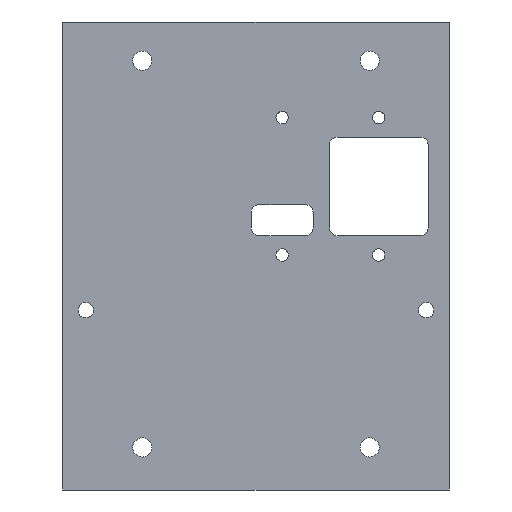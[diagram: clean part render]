
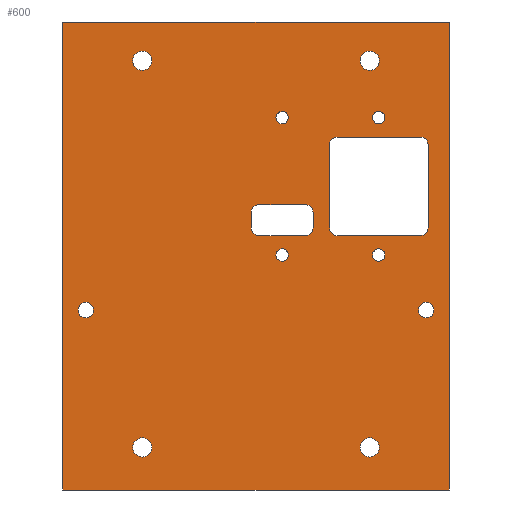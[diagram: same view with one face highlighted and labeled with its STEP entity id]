
A CAD part, top view. The second image highlights one B-rep face of the part: STEP entity #600.
In plain terms, the highlighted planar face has unit normal (0, 0, 1).
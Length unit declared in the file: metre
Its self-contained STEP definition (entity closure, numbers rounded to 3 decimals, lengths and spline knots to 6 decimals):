
#30=LINE('',#907,#74);
#31=LINE('',#912,#75);
#32=LINE('',#916,#76);
#33=LINE('',#920,#77);
#34=LINE('',#933,#78);
#35=LINE('',#936,#79);
#36=LINE('',#938,#80);
#37=LINE('',#940,#81);
#38=LINE('',#944,#82);
#39=LINE('',#948,#83);
#40=LINE('',#952,#84);
#41=LINE('',#956,#85);
#74=VECTOR('',#727,1.);
#75=VECTOR('',#730,1.);
#76=VECTOR('',#733,1.);
#77=VECTOR('',#736,1.);
#78=VECTOR('',#749,1.);
#79=VECTOR('',#750,1.);
#80=VECTOR('',#751,1.);
#81=VECTOR('',#752,1.);
#82=VECTOR('',#755,1.);
#83=VECTOR('',#758,1.);
#84=VECTOR('',#761,1.);
#85=VECTOR('',#764,1.);
#118=ORIENTED_EDGE('',*,*,#278,.F.);
#119=ORIENTED_EDGE('',*,*,#279,.F.);
#120=ORIENTED_EDGE('',*,*,#280,.F.);
#121=ORIENTED_EDGE('',*,*,#281,.F.);
#122=ORIENTED_EDGE('',*,*,#282,.F.);
#123=ORIENTED_EDGE('',*,*,#283,.F.);
#124=ORIENTED_EDGE('',*,*,#284,.F.);
#125=ORIENTED_EDGE('',*,*,#285,.F.);
#126=ORIENTED_EDGE('',*,*,#286,.F.);
#127=ORIENTED_EDGE('',*,*,#287,.T.);
#128=ORIENTED_EDGE('',*,*,#288,.F.);
#129=ORIENTED_EDGE('',*,*,#289,.T.);
#130=ORIENTED_EDGE('',*,*,#290,.F.);
#131=ORIENTED_EDGE('',*,*,#291,.F.);
#132=ORIENTED_EDGE('',*,*,#292,.F.);
#133=ORIENTED_EDGE('',*,*,#293,.F.);
#134=ORIENTED_EDGE('',*,*,#294,.F.);
#135=ORIENTED_EDGE('',*,*,#295,.F.);
#136=ORIENTED_EDGE('',*,*,#296,.F.);
#137=ORIENTED_EDGE('',*,*,#297,.T.);
#138=ORIENTED_EDGE('',*,*,#298,.T.);
#139=ORIENTED_EDGE('',*,*,#299,.F.);
#140=ORIENTED_EDGE('',*,*,#300,.F.);
#141=ORIENTED_EDGE('',*,*,#301,.T.);
#142=ORIENTED_EDGE('',*,*,#302,.F.);
#143=ORIENTED_EDGE('',*,*,#303,.T.);
#144=ORIENTED_EDGE('',*,*,#304,.F.);
#145=ORIENTED_EDGE('',*,*,#305,.F.);
#146=ORIENTED_EDGE('',*,*,#306,.F.);
#147=ORIENTED_EDGE('',*,*,#307,.F.);
#278=EDGE_CURVE('',#358,#358,#418,.T.);
#279=EDGE_CURVE('',#359,#359,#419,.T.);
#280=EDGE_CURVE('',#360,#360,#420,.T.);
#281=EDGE_CURVE('',#361,#361,#421,.T.);
#282=EDGE_CURVE('',#362,#362,#422,.T.);
#283=EDGE_CURVE('',#363,#364,#30,.T.);
#284=EDGE_CURVE('',#365,#363,#423,.T.);
#285=EDGE_CURVE('',#366,#365,#31,.T.);
#286=EDGE_CURVE('',#367,#366,#424,.T.);
#287=EDGE_CURVE('',#367,#368,#32,.T.);
#288=EDGE_CURVE('',#369,#368,#425,.T.);
#289=EDGE_CURVE('',#369,#370,#33,.T.);
#290=EDGE_CURVE('',#364,#370,#426,.T.);
#291=EDGE_CURVE('',#371,#371,#427,.T.);
#292=EDGE_CURVE('',#372,#372,#428,.T.);
#293=EDGE_CURVE('',#373,#373,#429,.T.);
#294=EDGE_CURVE('',#374,#374,#430,.T.);
#295=EDGE_CURVE('',#375,#375,#431,.T.);
#296=EDGE_CURVE('',#376,#377,#34,.T.);
#297=EDGE_CURVE('',#376,#378,#35,.T.);
#298=EDGE_CURVE('',#378,#379,#36,.T.);
#299=EDGE_CURVE('',#377,#379,#37,.T.);
#300=EDGE_CURVE('',#380,#381,#432,.T.);
#301=EDGE_CURVE('',#380,#382,#38,.T.);
#302=EDGE_CURVE('',#383,#382,#433,.T.);
#303=EDGE_CURVE('',#383,#384,#39,.T.);
#304=EDGE_CURVE('',#385,#384,#434,.T.);
#305=EDGE_CURVE('',#386,#385,#40,.T.);
#306=EDGE_CURVE('',#387,#386,#435,.T.);
#307=EDGE_CURVE('',#381,#387,#41,.T.);
#358=VERTEX_POINT('',#898);
#359=VERTEX_POINT('',#900);
#360=VERTEX_POINT('',#902);
#361=VERTEX_POINT('',#904);
#362=VERTEX_POINT('',#906);
#363=VERTEX_POINT('',#908);
#364=VERTEX_POINT('',#909);
#365=VERTEX_POINT('',#911);
#366=VERTEX_POINT('',#913);
#367=VERTEX_POINT('',#915);
#368=VERTEX_POINT('',#917);
#369=VERTEX_POINT('',#919);
#370=VERTEX_POINT('',#921);
#371=VERTEX_POINT('',#924);
#372=VERTEX_POINT('',#926);
#373=VERTEX_POINT('',#928);
#374=VERTEX_POINT('',#930);
#375=VERTEX_POINT('',#932);
#376=VERTEX_POINT('',#934);
#377=VERTEX_POINT('',#935);
#378=VERTEX_POINT('',#937);
#379=VERTEX_POINT('',#939);
#380=VERTEX_POINT('',#942);
#381=VERTEX_POINT('',#943);
#382=VERTEX_POINT('',#945);
#383=VERTEX_POINT('',#947);
#384=VERTEX_POINT('',#949);
#385=VERTEX_POINT('',#951);
#386=VERTEX_POINT('',#953);
#387=VERTEX_POINT('',#955);
#418=CIRCLE('',#646,0.002);
#419=CIRCLE('',#647,0.002);
#420=CIRCLE('',#648,0.0016);
#421=CIRCLE('',#649,0.0016);
#422=CIRCLE('',#650,0.0016);
#423=CIRCLE('',#651,0.002);
#424=CIRCLE('',#652,0.002);
#425=CIRCLE('',#653,0.002);
#426=CIRCLE('',#654,0.002);
#427=CIRCLE('',#655,0.0016);
#428=CIRCLE('',#656,0.0025);
#429=CIRCLE('',#657,0.0025);
#430=CIRCLE('',#658,0.0025);
#431=CIRCLE('',#659,0.0025);
#432=CIRCLE('',#660,0.002);
#433=CIRCLE('',#661,0.002);
#434=CIRCLE('',#662,0.002);
#435=CIRCLE('',#663,0.002);
#454=EDGE_LOOP('',(#118));
#455=EDGE_LOOP('',(#119));
#456=EDGE_LOOP('',(#120));
#457=EDGE_LOOP('',(#121));
#458=EDGE_LOOP('',(#122));
#459=EDGE_LOOP('',(#123,#124,#125,#126,#127,#128,#129,#130));
#460=EDGE_LOOP('',(#131));
#461=EDGE_LOOP('',(#132));
#462=EDGE_LOOP('',(#133));
#463=EDGE_LOOP('',(#134));
#464=EDGE_LOOP('',(#135));
#465=EDGE_LOOP('',(#136,#137,#138,#139));
#466=EDGE_LOOP('',(#140,#141,#142,#143,#144,#145,#146,#147));
#520=FACE_BOUND('',#454,.T.);
#521=FACE_BOUND('',#455,.T.);
#522=FACE_BOUND('',#456,.T.);
#523=FACE_BOUND('',#457,.T.);
#524=FACE_BOUND('',#458,.T.);
#525=FACE_BOUND('',#459,.T.);
#526=FACE_BOUND('',#460,.T.);
#527=FACE_BOUND('',#461,.T.);
#528=FACE_BOUND('',#462,.T.);
#529=FACE_BOUND('',#463,.T.);
#530=FACE_BOUND('',#464,.T.);
#531=FACE_BOUND('',#465,.T.);
#532=FACE_BOUND('',#466,.T.);
#586=PLANE('',#645);
#600=ADVANCED_FACE('',(#520,#521,#522,#523,#524,#525,#526,#527,#528,#529,
#530,#531,#532),#586,.T.);
#645=AXIS2_PLACEMENT_3D('',#896,#715,#716);
#646=AXIS2_PLACEMENT_3D('',#897,#717,#718);
#647=AXIS2_PLACEMENT_3D('',#899,#719,#720);
#648=AXIS2_PLACEMENT_3D('',#901,#721,#722);
#649=AXIS2_PLACEMENT_3D('',#903,#723,#724);
#650=AXIS2_PLACEMENT_3D('',#905,#725,#726);
#651=AXIS2_PLACEMENT_3D('',#910,#728,#729);
#652=AXIS2_PLACEMENT_3D('',#914,#731,#732);
#653=AXIS2_PLACEMENT_3D('',#918,#734,#735);
#654=AXIS2_PLACEMENT_3D('',#922,#737,#738);
#655=AXIS2_PLACEMENT_3D('',#923,#739,#740);
#656=AXIS2_PLACEMENT_3D('',#925,#741,#742);
#657=AXIS2_PLACEMENT_3D('',#927,#743,#744);
#658=AXIS2_PLACEMENT_3D('',#929,#745,#746);
#659=AXIS2_PLACEMENT_3D('',#931,#747,#748);
#660=AXIS2_PLACEMENT_3D('',#941,#753,#754);
#661=AXIS2_PLACEMENT_3D('',#946,#756,#757);
#662=AXIS2_PLACEMENT_3D('',#950,#759,#760);
#663=AXIS2_PLACEMENT_3D('',#954,#762,#763);
#715=DIRECTION('',(0.,0.,1.));
#716=DIRECTION('',(1.,0.,0.));
#717=DIRECTION('',(0.,0.,1.));
#718=DIRECTION('',(1.,0.,0.));
#719=DIRECTION('',(0.,0.,1.));
#720=DIRECTION('',(1.,0.,0.));
#721=DIRECTION('',(0.,0.,1.));
#722=DIRECTION('',(1.,0.,0.));
#723=DIRECTION('',(0.,0.,1.));
#724=DIRECTION('',(1.,0.,0.));
#725=DIRECTION('',(0.,0.,1.));
#726=DIRECTION('',(1.,0.,0.));
#727=DIRECTION('',(1.,0.,0.));
#728=DIRECTION('',(0.,0.,1.));
#729=DIRECTION('',(1.,0.,0.));
#730=DIRECTION('',(0.,-1.,0.));
#731=DIRECTION('',(0.,0.,1.));
#732=DIRECTION('',(1.,0.,0.));
#733=DIRECTION('',(1.,0.,0.));
#734=DIRECTION('',(0.,0.,1.));
#735=DIRECTION('',(1.,0.,0.));
#736=DIRECTION('',(0.,-1.,0.));
#737=DIRECTION('',(0.,0.,1.));
#738=DIRECTION('',(1.,0.,0.));
#739=DIRECTION('',(0.,0.,1.));
#740=DIRECTION('',(1.,0.,0.));
#741=DIRECTION('',(0.,0.,1.));
#742=DIRECTION('',(1.,0.,0.));
#743=DIRECTION('',(0.,0.,1.));
#744=DIRECTION('',(1.,0.,0.));
#745=DIRECTION('',(0.,0.,1.));
#746=DIRECTION('',(1.,0.,0.));
#747=DIRECTION('',(0.,0.,1.));
#748=DIRECTION('',(1.,0.,0.));
#749=DIRECTION('',(-1.,0.,0.));
#750=DIRECTION('',(0.,1.,0.));
#751=DIRECTION('',(-1.,0.,0.));
#752=DIRECTION('',(0.,1.,0.));
#753=DIRECTION('',(0.,0.,1.));
#754=DIRECTION('',(1.,0.,0.));
#755=DIRECTION('',(0.,-1.,0.));
#756=DIRECTION('',(0.,0.,1.));
#757=DIRECTION('',(1.,0.,0.));
#758=DIRECTION('',(-1.,0.,0.));
#759=DIRECTION('',(0.,0.,1.));
#760=DIRECTION('',(1.,0.,0.));
#761=DIRECTION('',(0.,-1.,0.));
#762=DIRECTION('',(0.,0.,1.));
#763=DIRECTION('',(1.,0.,0.));
#764=DIRECTION('',(-1.,0.,0.));
#896=CARTESIAN_POINT('',(0.,0.,0.003));
#897=CARTESIAN_POINT('',(-0.044,-0.014,0.003));
#898=CARTESIAN_POINT('',(-0.042,-0.014,0.003));
#899=CARTESIAN_POINT('',(0.044,-0.014,0.003));
#900=CARTESIAN_POINT('',(0.046,-0.014,0.003));
#901=CARTESIAN_POINT('',(0.00675,0.00025,0.003));
#902=CARTESIAN_POINT('',(0.00835,0.00025,0.003));
#903=CARTESIAN_POINT('',(0.03175,0.03575,0.003));
#904=CARTESIAN_POINT('',(0.03335,0.03575,0.003));
#905=CARTESIAN_POINT('',(0.03175,0.00025,0.003));
#906=CARTESIAN_POINT('',(0.03335,0.00025,0.003));
#907=CARTESIAN_POINT('',(0.,0.00525,0.003));
#908=CARTESIAN_POINT('',(0.00075,0.00525,0.003));
#909=CARTESIAN_POINT('',(0.01275,0.00525,0.003));
#910=CARTESIAN_POINT('',(0.00075,0.00725,0.003));
#911=CARTESIAN_POINT('',(-0.00125,0.00725,0.003));
#912=CARTESIAN_POINT('',(-0.00125,0.,0.003));
#913=CARTESIAN_POINT('',(-0.00125,0.01125,0.003));
#914=CARTESIAN_POINT('',(0.00075,0.01125,0.003));
#915=CARTESIAN_POINT('',(0.00075,0.01325,0.003));
#916=CARTESIAN_POINT('',(0.,0.01325,0.003));
#917=CARTESIAN_POINT('',(0.01275,0.01325,0.003));
#918=CARTESIAN_POINT('',(0.01275,0.01125,0.003));
#919=CARTESIAN_POINT('',(0.01475,0.01125,0.003));
#920=CARTESIAN_POINT('',(0.01475,0.,0.003));
#921=CARTESIAN_POINT('',(0.01475,0.00725,0.003));
#922=CARTESIAN_POINT('',(0.01275,0.00725,0.003));
#923=CARTESIAN_POINT('',(0.00675,0.03575,0.003));
#924=CARTESIAN_POINT('',(0.00835,0.03575,0.003));
#925=CARTESIAN_POINT('',(0.029394,0.0505,0.003));
#926=CARTESIAN_POINT('',(0.031894,0.0505,0.003));
#927=CARTESIAN_POINT('',(-0.029394,0.0505,0.003));
#928=CARTESIAN_POINT('',(-0.026894,0.0505,0.003));
#929=CARTESIAN_POINT('',(-0.029394,-0.0495,0.003));
#930=CARTESIAN_POINT('',(-0.026894,-0.0495,0.003));
#931=CARTESIAN_POINT('',(0.029394,-0.0495,0.003));
#932=CARTESIAN_POINT('',(0.031894,-0.0495,0.003));
#933=CARTESIAN_POINT('',(0.,-0.0605,0.003));
#934=CARTESIAN_POINT('',(0.05,-0.0605,0.003));
#935=CARTESIAN_POINT('',(-0.05,-0.0605,0.003));
#936=CARTESIAN_POINT('',(0.05,0.,0.003));
#937=CARTESIAN_POINT('',(0.05,0.0605,0.003));
#938=CARTESIAN_POINT('',(0.,0.0605,0.003));
#939=CARTESIAN_POINT('',(-0.05,0.0605,0.003));
#940=CARTESIAN_POINT('',(-0.05,0.,0.003));
#941=CARTESIAN_POINT('',(0.0425,0.02875,0.003));
#942=CARTESIAN_POINT('',(0.0445,0.02875,0.003));
#943=CARTESIAN_POINT('',(0.0425,0.03075,0.003));
#944=CARTESIAN_POINT('',(0.0445,0.,0.003));
#945=CARTESIAN_POINT('',(0.0445,0.00725,0.003));
#946=CARTESIAN_POINT('',(0.0425,0.00725,0.003));
#947=CARTESIAN_POINT('',(0.0425,0.00525,0.003));
#948=CARTESIAN_POINT('',(0.,0.00525,0.003));
#949=CARTESIAN_POINT('',(0.021,0.00525,0.003));
#950=CARTESIAN_POINT('',(0.021,0.00725,0.003));
#951=CARTESIAN_POINT('',(0.019,0.00725,0.003));
#952=CARTESIAN_POINT('',(0.019,0.,0.003));
#953=CARTESIAN_POINT('',(0.019,0.02875,0.003));
#954=CARTESIAN_POINT('',(0.021,0.02875,0.003));
#955=CARTESIAN_POINT('',(0.021,0.03075,0.003));
#956=CARTESIAN_POINT('',(0.,0.03075,0.003));
